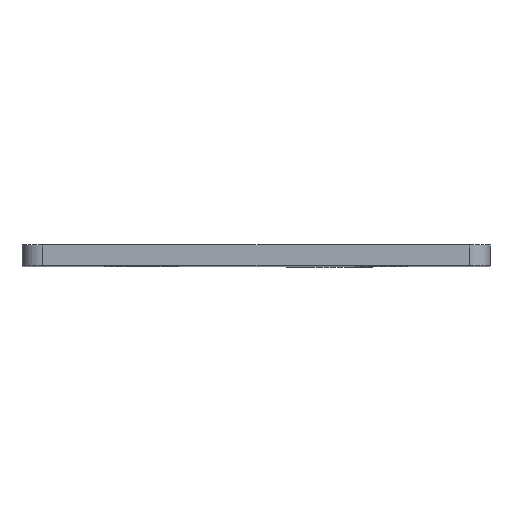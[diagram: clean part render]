
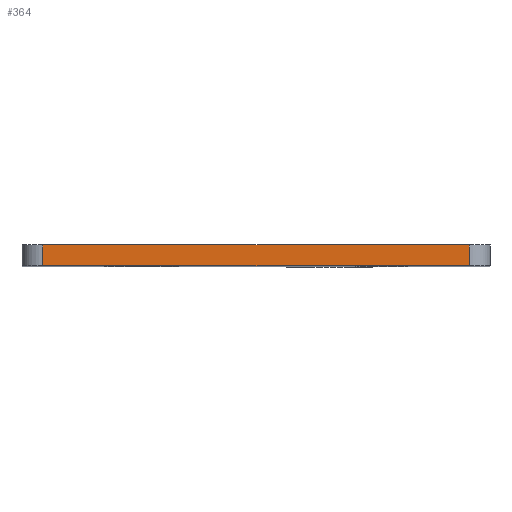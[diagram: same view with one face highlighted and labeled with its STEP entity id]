
A CAD part, top view. The second image highlights one B-rep face of the part: STEP entity #364.
In plain terms, the highlighted planar face has unit normal (0, 0, 1).
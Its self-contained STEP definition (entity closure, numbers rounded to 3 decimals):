
#22 = DIRECTION ( 'NONE',  ( 1., 0., 0. ) ) ;
#43 = VECTOR ( 'NONE', #492, 1000. ) ;
#100 = CARTESIAN_POINT ( 'NONE',  ( 19.5, 0., 13. ) ) ;
#107 = CARTESIAN_POINT ( 'NONE',  ( 70.5, 0., 13. ) ) ;
#149 = AXIS2_PLACEMENT_3D ( 'NONE', #261, #558, #612 ) ;
#210 = VERTEX_POINT ( 'NONE', #704 ) ;
#213 = VERTEX_POINT ( 'NONE', #409 ) ;
#238 = EDGE_LOOP ( 'NONE', ( #314, #733, #547, #353 ) ) ;
#247 = CARTESIAN_POINT ( 'NONE',  ( 17., 2.5, 13. ) ) ;
#261 = CARTESIAN_POINT ( 'NONE',  ( 17., 0., 13. ) ) ;
#265 = FACE_OUTER_BOUND ( 'NONE', #238, .T. ) ;
#281 = CARTESIAN_POINT ( 'NONE',  ( 70.5, 2.5, 13. ) ) ;
#314 = ORIENTED_EDGE ( 'NONE', *, *, #403, .F. ) ;
#328 = VECTOR ( 'NONE', #390, 1000. ) ;
#353 = ORIENTED_EDGE ( 'NONE', *, *, #513, .T. ) ;
#364 = ADVANCED_FACE ( 'NONE', ( #265 ), #490, .T. ) ;
#382 = CARTESIAN_POINT ( 'NONE',  ( 19.5, 0., 13. ) ) ;
#390 = DIRECTION ( 'NONE',  ( 0., 1., 0. ) ) ;
#403 = EDGE_CURVE ( 'NONE', #210, #614, #486, .T. ) ;
#409 = CARTESIAN_POINT ( 'NONE',  ( 70.5, 0., 13. ) ) ;
#467 = VECTOR ( 'NONE', #560, 1000. ) ;
#486 = LINE ( 'NONE', #247, #611 ) ;
#489 = EDGE_CURVE ( 'NONE', #210, #705, #669, .T. ) ;
#490 = PLANE ( 'NONE',  #149 ) ;
#492 = DIRECTION ( 'NONE',  ( 0., -1., 0. ) ) ;
#496 = LINE ( 'NONE', #107, #328 ) ;
#513 = EDGE_CURVE ( 'NONE', #213, #614, #496, .T. ) ;
#547 = ORIENTED_EDGE ( 'NONE', *, *, #630, .T. ) ;
#558 = DIRECTION ( 'NONE',  ( 0., 0., 1. ) ) ;
#560 = DIRECTION ( 'NONE',  ( 1., 0., 0. ) ) ;
#591 = LINE ( 'NONE', #683, #467 ) ;
#611 = VECTOR ( 'NONE', #22, 1000. ) ;
#612 = DIRECTION ( 'NONE',  ( 1., 0., 0. ) ) ;
#614 = VERTEX_POINT ( 'NONE', #281 ) ;
#630 = EDGE_CURVE ( 'NONE', #705, #213, #591, .T. ) ;
#669 = LINE ( 'NONE', #100, #43 ) ;
#683 = CARTESIAN_POINT ( 'NONE',  ( 17., 0., 13. ) ) ;
#704 = CARTESIAN_POINT ( 'NONE',  ( 19.5, 2.5, 13. ) ) ;
#705 = VERTEX_POINT ( 'NONE', #382 ) ;
#733 = ORIENTED_EDGE ( 'NONE', *, *, #489, .T. ) ;
